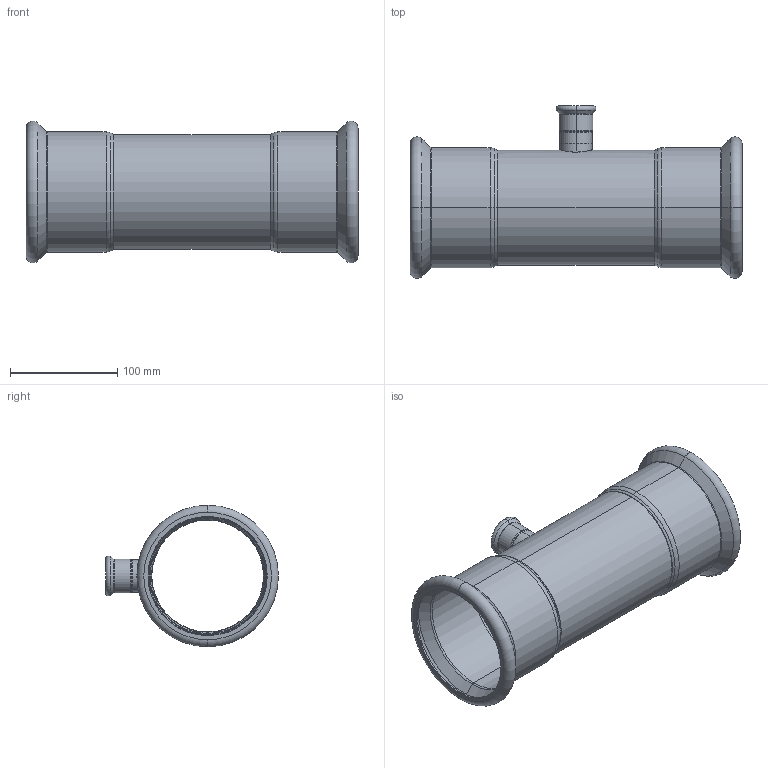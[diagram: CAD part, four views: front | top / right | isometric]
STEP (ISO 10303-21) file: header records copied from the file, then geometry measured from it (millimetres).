
FILE_DESCRIPTION (( 'STEP AP203' ), '1' );
FILE_NAME ('GDA5224.STEP', '2019-01-12T06:07:30', ( '' ), ( '' ), 'SwSTEP 2.0', 'SolidWorks 2015', '' );
FILE_SCHEMA (( 'CONFIG_CONTROL_DESIGN' ));
Length unit declared in the file: millimetre
Products named in the file (3): T(R)-Ⅰ-108×28''; GDA5224; T-ｉ-01-28
Assembly tree (2 placements, depth 2):
  GDA5224
    T(R)-Ⅰ-108×28''
    T-ｉ-01-28
Bounding box: 309 x 160.89 x 131.78 mm (x, y, z)
Volume: 177429.6 mm3; surface area: 237591.7 mm2
Topology: 2 solids, 2 shells, 114 faces, 234 edges, 128 vertices
Faces by surface type: torus 48, cylinder 30, cone 24, plane 8, bspline 4
Entity records: 4294 total; most frequent: CARTESIAN_POINT 1504, DIRECTION 620, ORIENTED_EDGE 468, AXIS2_PLACEMENT_3D 283, EDGE_CURVE 234, CIRCLE 168, VERTEX_POINT 128, EDGE_LOOP 124
